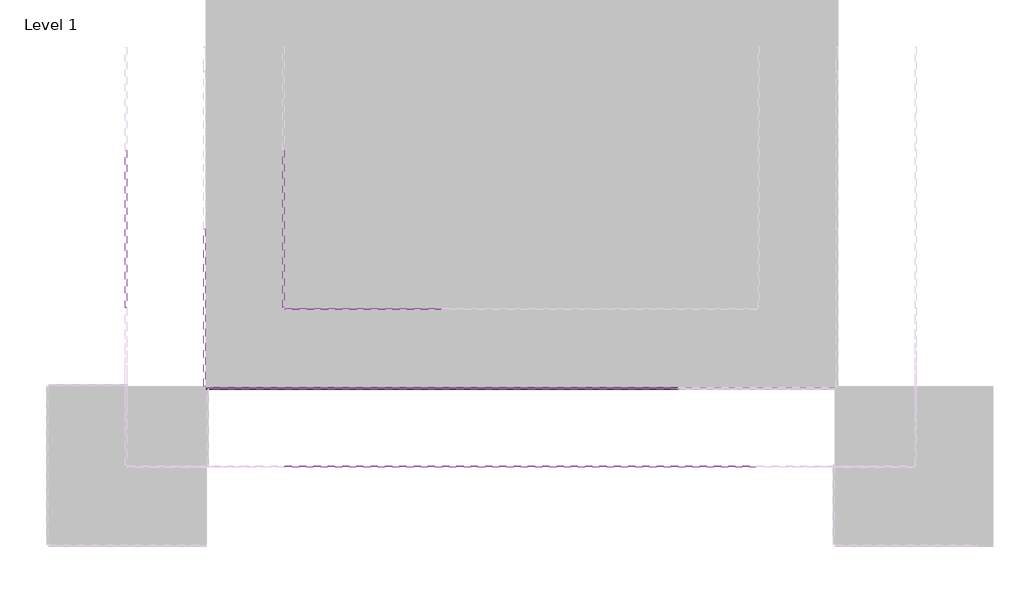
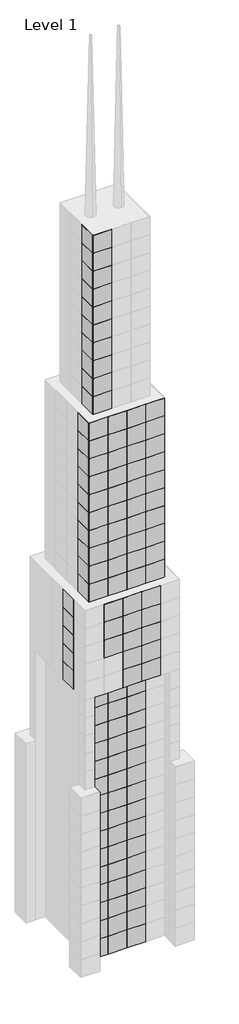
# One storey, part 2 of 15: 138 plates.
"""IFC4 building model written with IfcOpenShell, lengths in millimetres."""

from ifc_helpers import new_model, si_unit, origin, place, context, project, spatial, transform, mapped, element, save
from components import system_panel_glazed_aa64d645, system_panel_glazed_b248394d

model = new_model("IFC4")

# Units and contexts
model_context = context("Model", 3, world=origin())
ifc_project = project(units=[si_unit("LENGTHUNIT", "METRE", prefix="MILLI")], contexts=[model_context])

# Site, building, storey
site = spatial("IfcSite", under=ifc_project)
building = spatial("IfcBuilding", under=site)
storey = spatial("IfcBuildingStorey", under=building, Name="Level 1", Elevation=0.0)

# Plates
placement = place(None, origin())
system_panel_glazed_shape = system_panel_glazed_aa64d645(model_context)
element("IfcPlate", 1, ObjectType="System Panel : Glazed", at=placement, inside=storey, context=model_context, shape_type="MappedRepresentation", body=[
    mapped(system_panel_glazed_shape, transform((-13219.4161695, -5742.0504489, 45720.0), x_axis=(1.0, 0.0, 0.0), y_axis=(0.0, 1.0, 0.0), z_axis=(0.0, 0.0, 1.0))),
])
element("IfcPlate", 2, ObjectType="System Panel : Glazed", at=placement, inside=storey, context=model_context, shape_type="MappedRepresentation", body=[
    mapped(system_panel_glazed_shape, transform((-10171.4161695, -5742.0504489, 45720.0), x_axis=(1.0, 0.0, 0.0), y_axis=(0.0, 1.0, 0.0), z_axis=(0.0, 0.0, 1.0))),
])
element("IfcPlate", 3, ObjectType="System Panel : Glazed", at=placement, inside=storey, context=model_context, shape_type="MappedRepresentation", body=[
    mapped(system_panel_glazed_shape, transform((-13219.4161695, -5742.0504489, 48768.0), x_axis=(1.0, 0.0, 0.0), y_axis=(0.0, 1.0, 0.0), z_axis=(0.0, 0.0, 1.0))),
])
element("IfcPlate", 4, ObjectType="System Panel : Glazed", at=placement, inside=storey, context=model_context, shape_type="MappedRepresentation", body=[
    mapped(system_panel_glazed_shape, transform((-10171.4161695, -5742.0504489, 48768.0), x_axis=(1.0, 0.0, 0.0), y_axis=(0.0, 1.0, 0.0), z_axis=(0.0, 0.0, 1.0))),
])
element("IfcPlate", 5, ObjectType="System Panel : Glazed", at=placement, inside=storey, context=model_context, shape_type="MappedRepresentation", body=[
    mapped(system_panel_glazed_shape, transform((-16267.4161695, -5742.0504489, 51816.0), x_axis=(1.0, 0.0, 0.0), y_axis=(0.0, 1.0, 0.0), z_axis=(0.0, 0.0, 1.0))),
])
element("IfcPlate", 6, ObjectType="System Panel : Glazed", at=placement, inside=storey, context=model_context, shape_type="MappedRepresentation", body=[
    mapped(system_panel_glazed_shape, transform((-13219.4161695, -5742.0504489, 51816.0), x_axis=(1.0, 0.0, 0.0), y_axis=(0.0, 1.0, 0.0), z_axis=(0.0, 0.0, 1.0))),
])
element("IfcPlate", 7, ObjectType="System Panel : Glazed", at=placement, inside=storey, context=model_context, shape_type="MappedRepresentation", body=[
    mapped(system_panel_glazed_shape, transform((-10171.4161695, -5742.0504489, 51816.0), x_axis=(1.0, 0.0, 0.0), y_axis=(0.0, 1.0, 0.0), z_axis=(0.0, 0.0, 1.0))),
])
element("IfcPlate", 8, ObjectType="System Panel : Glazed", at=placement, inside=storey, context=model_context, shape_type="MappedRepresentation", body=[
    mapped(system_panel_glazed_shape, transform((-16267.4161695, -5742.0504489, 54864.0), x_axis=(1.0, 0.0, 0.0), y_axis=(0.0, 1.0, 0.0), z_axis=(0.0, 0.0, 1.0))),
])
element("IfcPlate", 9, ObjectType="System Panel : Glazed", at=placement, inside=storey, context=model_context, shape_type="MappedRepresentation", body=[
    mapped(system_panel_glazed_shape, transform((-13219.4161695, -5742.0504489, 54864.0), x_axis=(1.0, 0.0, 0.0), y_axis=(0.0, 1.0, 0.0), z_axis=(0.0, 0.0, 1.0))),
])
element("IfcPlate", 10, ObjectType="System Panel : Glazed", at=placement, inside=storey, context=model_context, shape_type="MappedRepresentation", body=[
    mapped(system_panel_glazed_shape, transform((-10171.4161695, -5742.0504489, 54864.0), x_axis=(1.0, 0.0, 0.0), y_axis=(0.0, 1.0, 0.0), z_axis=(0.0, 0.0, 1.0))),
])
element("IfcPlate", 11, ObjectType="System Panel : Glazed", at=placement, inside=storey, context=model_context, shape_type="MappedRepresentation", body=[
    mapped(system_panel_glazed_shape, transform((-16267.4161695, -5742.0504489, 57912.0), x_axis=(1.0, 0.0, 0.0), y_axis=(0.0, 1.0, 0.0), z_axis=(0.0, 0.0, 1.0))),
])
element("IfcPlate", 12, ObjectType="System Panel : Glazed", at=placement, inside=storey, context=model_context, shape_type="MappedRepresentation", body=[
    mapped(system_panel_glazed_shape, transform((-13219.4161695, -5742.0504489, 57912.0), x_axis=(1.0, 0.0, 0.0), y_axis=(0.0, 1.0, 0.0), z_axis=(0.0, 0.0, 1.0))),
])
element("IfcPlate", 13, ObjectType="System Panel : Glazed", at=placement, inside=storey, context=model_context, shape_type="MappedRepresentation", body=[
    mapped(system_panel_glazed_shape, transform((-10171.4161695, -5742.0504489, 57912.0), x_axis=(1.0, 0.0, 0.0), y_axis=(0.0, 1.0, 0.0), z_axis=(0.0, 0.0, 1.0))),
])
element("IfcPlate", 14, ObjectType="System Panel : Glazed", at=placement, inside=storey, context=model_context, shape_type="MappedRepresentation", body=[
    mapped(system_panel_glazed_shape, transform((-20839.4161695, -1170.0504489, 45720.0), x_axis=(0.0, -1.0, 0.0), y_axis=(1.0, 0.0, 0.0), z_axis=(0.0, 0.0, 1.0))),
])
element("IfcPlate", 15, ObjectType="System Panel : Glazed", at=placement, inside=storey, context=model_context, shape_type="MappedRepresentation", body=[
    mapped(system_panel_glazed_shape, transform((-20839.4161695, -1170.0504489, 48768.0), x_axis=(0.0, -1.0, 0.0), y_axis=(1.0, 0.0, 0.0), z_axis=(0.0, 0.0, 1.0))),
])
element("IfcPlate", 16, ObjectType="System Panel : Glazed", at=placement, inside=storey, context=model_context, shape_type="MappedRepresentation", body=[
    mapped(system_panel_glazed_shape, transform((-20839.4161695, -1170.0504489, 51816.0), x_axis=(0.0, -1.0, 0.0), y_axis=(1.0, 0.0, 0.0), z_axis=(0.0, 0.0, 1.0))),
])
element("IfcPlate", 17, ObjectType="System Panel : Glazed", at=placement, inside=storey, context=model_context, shape_type="MappedRepresentation", body=[
    mapped(system_panel_glazed_shape, transform((-20839.4161695, -1170.0504489, 54864.0), x_axis=(0.0, -1.0, 0.0), y_axis=(1.0, 0.0, 0.0), z_axis=(0.0, 0.0, 1.0))),
])
element("IfcPlate", 18, ObjectType="System Panel : Glazed", at=placement, inside=storey, context=model_context, shape_type="MappedRepresentation", body=[
    mapped(system_panel_glazed_shape, transform((-20839.4161695, -1170.0504489, 57912.0), x_axis=(0.0, -1.0, 0.0), y_axis=(1.0, 0.0, 0.0), z_axis=(0.0, 0.0, 1.0))),
])
element("IfcPlate", 19, ObjectType="System Panel : Glazed", at=placement, inside=storey, context=model_context, shape_type="MappedRepresentation", body=[
    mapped(system_panel_glazed_shape, transform((-17791.4161695, -4218.0504489, 60960.0), x_axis=(1.0, 0.0, 0.0), y_axis=(0.0, 1.0, 0.0), z_axis=(0.0, 0.0, 1.0))),
])
element("IfcPlate", 20, ObjectType="System Panel : Glazed", at=placement, inside=storey, context=model_context, shape_type="MappedRepresentation", body=[
    mapped(system_panel_glazed_shape, transform((-14743.4161695, -4218.0504489, 60960.0), x_axis=(1.0, 0.0, 0.0), y_axis=(0.0, 1.0, 0.0), z_axis=(0.0, 0.0, 1.0))),
])
element("IfcPlate", 21, ObjectType="System Panel : Glazed", at=placement, inside=storey, context=model_context, shape_type="MappedRepresentation", body=[
    mapped(system_panel_glazed_shape, transform((-11695.4161695, -4218.0504489, 60960.0), x_axis=(1.0, 0.0, 0.0), y_axis=(0.0, 1.0, 0.0), z_axis=(0.0, 0.0, 1.0))),
])
element("IfcPlate", 22, ObjectType="System Panel : Glazed", at=placement, inside=storey, context=model_context, shape_type="MappedRepresentation", body=[
    mapped(system_panel_glazed_shape, transform((-8647.4161695, -4218.0504489, 60960.0), x_axis=(1.0, 0.0, 0.0), y_axis=(0.0, 1.0, 0.0), z_axis=(0.0, 0.0, 1.0))),
])
element("IfcPlate", 23, ObjectType="System Panel : Glazed", at=placement, inside=storey, context=model_context, shape_type="MappedRepresentation", body=[
    mapped(system_panel_glazed_shape, transform((-17791.4161695, -4218.0504489, 64008.0), x_axis=(1.0, 0.0, 0.0), y_axis=(0.0, 1.0, 0.0), z_axis=(0.0, 0.0, 1.0))),
])
element("IfcPlate", 24, ObjectType="System Panel : Glazed", at=placement, inside=storey, context=model_context, shape_type="MappedRepresentation", body=[
    mapped(system_panel_glazed_shape, transform((-14743.4161695, -4218.0504489, 64008.0), x_axis=(1.0, 0.0, 0.0), y_axis=(0.0, 1.0, 0.0), z_axis=(0.0, 0.0, 1.0))),
])
element("IfcPlate", 25, ObjectType="System Panel : Glazed", at=placement, inside=storey, context=model_context, shape_type="MappedRepresentation", body=[
    mapped(system_panel_glazed_shape, transform((-11695.4161695, -4218.0504489, 64008.0), x_axis=(1.0, 0.0, 0.0), y_axis=(0.0, 1.0, 0.0), z_axis=(0.0, 0.0, 1.0))),
])
element("IfcPlate", 26, ObjectType="System Panel : Glazed", at=placement, inside=storey, context=model_context, shape_type="MappedRepresentation", body=[
    mapped(system_panel_glazed_shape, transform((-8647.4161695, -4218.0504489, 64008.0), x_axis=(1.0, 0.0, 0.0), y_axis=(0.0, 1.0, 0.0), z_axis=(0.0, 0.0, 1.0))),
])
element("IfcPlate", 27, ObjectType="System Panel : Glazed", at=placement, inside=storey, context=model_context, shape_type="MappedRepresentation", body=[
    mapped(system_panel_glazed_shape, transform((-17791.4161695, -4218.0504489, 67056.0), x_axis=(1.0, 0.0, 0.0), y_axis=(0.0, 1.0, 0.0), z_axis=(0.0, 0.0, 1.0))),
])
element("IfcPlate", 28, ObjectType="System Panel : Glazed", at=placement, inside=storey, context=model_context, shape_type="MappedRepresentation", body=[
    mapped(system_panel_glazed_shape, transform((-14743.4161695, -4218.0504489, 67056.0), x_axis=(1.0, 0.0, 0.0), y_axis=(0.0, 1.0, 0.0), z_axis=(0.0, 0.0, 1.0))),
])
element("IfcPlate", 29, ObjectType="System Panel : Glazed", at=placement, inside=storey, context=model_context, shape_type="MappedRepresentation", body=[
    mapped(system_panel_glazed_shape, transform((-11695.4161695, -4218.0504489, 67056.0), x_axis=(1.0, 0.0, 0.0), y_axis=(0.0, 1.0, 0.0), z_axis=(0.0, 0.0, 1.0))),
])
element("IfcPlate", 30, ObjectType="System Panel : Glazed", at=placement, inside=storey, context=model_context, shape_type="MappedRepresentation", body=[
    mapped(system_panel_glazed_shape, transform((-8647.4161695, -4218.0504489, 67056.0), x_axis=(1.0, 0.0, 0.0), y_axis=(0.0, 1.0, 0.0), z_axis=(0.0, 0.0, 1.0))),
])
element("IfcPlate", 31, ObjectType="System Panel : Glazed", at=placement, inside=storey, context=model_context, shape_type="MappedRepresentation", body=[
    mapped(system_panel_glazed_shape, transform((-17791.4161695, -4218.0504489, 70104.0), x_axis=(1.0, 0.0, 0.0), y_axis=(0.0, 1.0, 0.0), z_axis=(0.0, 0.0, 1.0))),
])
element("IfcPlate", 32, ObjectType="System Panel : Glazed", at=placement, inside=storey, context=model_context, shape_type="MappedRepresentation", body=[
    mapped(system_panel_glazed_shape, transform((-14743.4161695, -4218.0504489, 70104.0), x_axis=(1.0, 0.0, 0.0), y_axis=(0.0, 1.0, 0.0), z_axis=(0.0, 0.0, 1.0))),
])
element("IfcPlate", 33, ObjectType="System Panel : Glazed", at=placement, inside=storey, context=model_context, shape_type="MappedRepresentation", body=[
    mapped(system_panel_glazed_shape, transform((-11695.4161695, -4218.0504489, 70104.0), x_axis=(1.0, 0.0, 0.0), y_axis=(0.0, 1.0, 0.0), z_axis=(0.0, 0.0, 1.0))),
])
element("IfcPlate", 34, ObjectType="System Panel : Glazed", at=placement, inside=storey, context=model_context, shape_type="MappedRepresentation", body=[
    mapped(system_panel_glazed_shape, transform((-8647.4161695, -4218.0504489, 70104.0), x_axis=(1.0, 0.0, 0.0), y_axis=(0.0, 1.0, 0.0), z_axis=(0.0, 0.0, 1.0))),
])
element("IfcPlate", 35, ObjectType="System Panel : Glazed", at=placement, inside=storey, context=model_context, shape_type="MappedRepresentation", body=[
    mapped(system_panel_glazed_shape, transform((-17791.4161695, -4218.0504489, 73152.0), x_axis=(1.0, 0.0, 0.0), y_axis=(0.0, 1.0, 0.0), z_axis=(0.0, 0.0, 1.0))),
])
element("IfcPlate", 36, ObjectType="System Panel : Glazed", at=placement, inside=storey, context=model_context, shape_type="MappedRepresentation", body=[
    mapped(system_panel_glazed_shape, transform((-14743.4161695, -4218.0504489, 73152.0), x_axis=(1.0, 0.0, 0.0), y_axis=(0.0, 1.0, 0.0), z_axis=(0.0, 0.0, 1.0))),
])
element("IfcPlate", 37, ObjectType="System Panel : Glazed", at=placement, inside=storey, context=model_context, shape_type="MappedRepresentation", body=[
    mapped(system_panel_glazed_shape, transform((-11695.4161695, -4218.0504489, 73152.0), x_axis=(1.0, 0.0, 0.0), y_axis=(0.0, 1.0, 0.0), z_axis=(0.0, 0.0, 1.0))),
])
element("IfcPlate", 38, ObjectType="System Panel : Glazed", at=placement, inside=storey, context=model_context, shape_type="MappedRepresentation", body=[
    mapped(system_panel_glazed_shape, transform((-8647.4161695, -4218.0504489, 73152.0), x_axis=(1.0, 0.0, 0.0), y_axis=(0.0, 1.0, 0.0), z_axis=(0.0, 0.0, 1.0))),
])
element("IfcPlate", 39, ObjectType="System Panel : Glazed", at=placement, inside=storey, context=model_context, shape_type="MappedRepresentation", body=[
    mapped(system_panel_glazed_shape, transform((-17791.4161695, -4218.0504489, 76200.0), x_axis=(1.0, 0.0, 0.0), y_axis=(0.0, 1.0, 0.0), z_axis=(0.0, 0.0, 1.0))),
])
element("IfcPlate", 40, ObjectType="System Panel : Glazed", at=placement, inside=storey, context=model_context, shape_type="MappedRepresentation", body=[
    mapped(system_panel_glazed_shape, transform((-14743.4161695, -4218.0504489, 76200.0), x_axis=(1.0, 0.0, 0.0), y_axis=(0.0, 1.0, 0.0), z_axis=(0.0, 0.0, 1.0))),
])
element("IfcPlate", 41, ObjectType="System Panel : Glazed", at=placement, inside=storey, context=model_context, shape_type="MappedRepresentation", body=[
    mapped(system_panel_glazed_shape, transform((-11695.4161695, -4218.0504489, 76200.0), x_axis=(1.0, 0.0, 0.0), y_axis=(0.0, 1.0, 0.0), z_axis=(0.0, 0.0, 1.0))),
])
element("IfcPlate", 42, ObjectType="System Panel : Glazed", at=placement, inside=storey, context=model_context, shape_type="MappedRepresentation", body=[
    mapped(system_panel_glazed_shape, transform((-8647.4161695, -4218.0504489, 76200.0), x_axis=(1.0, 0.0, 0.0), y_axis=(0.0, 1.0, 0.0), z_axis=(0.0, 0.0, 1.0))),
])
element("IfcPlate", 43, ObjectType="System Panel : Glazed", at=placement, inside=storey, context=model_context, shape_type="MappedRepresentation", body=[
    mapped(system_panel_glazed_shape, transform((-17791.4161695, -4218.0504489, 79248.0), x_axis=(1.0, 0.0, 0.0), y_axis=(0.0, 1.0, 0.0), z_axis=(0.0, 0.0, 1.0))),
])
element("IfcPlate", 44, ObjectType="System Panel : Glazed", at=placement, inside=storey, context=model_context, shape_type="MappedRepresentation", body=[
    mapped(system_panel_glazed_shape, transform((-14743.4161695, -4218.0504489, 79248.0), x_axis=(1.0, 0.0, 0.0), y_axis=(0.0, 1.0, 0.0), z_axis=(0.0, 0.0, 1.0))),
])
element("IfcPlate", 45, ObjectType="System Panel : Glazed", at=placement, inside=storey, context=model_context, shape_type="MappedRepresentation", body=[
    mapped(system_panel_glazed_shape, transform((-11695.4161695, -4218.0504489, 79248.0), x_axis=(1.0, 0.0, 0.0), y_axis=(0.0, 1.0, 0.0), z_axis=(0.0, 0.0, 1.0))),
])
element("IfcPlate", 46, ObjectType="System Panel : Glazed", at=placement, inside=storey, context=model_context, shape_type="MappedRepresentation", body=[
    mapped(system_panel_glazed_shape, transform((-8647.4161695, -4218.0504489, 79248.0), x_axis=(1.0, 0.0, 0.0), y_axis=(0.0, 1.0, 0.0), z_axis=(0.0, 0.0, 1.0))),
])
element("IfcPlate", 47, ObjectType="System Panel : Glazed", at=placement, inside=storey, context=model_context, shape_type="MappedRepresentation", body=[
    mapped(system_panel_glazed_shape, transform((-17791.4161695, -4218.0504489, 82296.0), x_axis=(1.0, 0.0, 0.0), y_axis=(0.0, 1.0, 0.0), z_axis=(0.0, 0.0, 1.0))),
])
element("IfcPlate", 48, ObjectType="System Panel : Glazed", at=placement, inside=storey, context=model_context, shape_type="MappedRepresentation", body=[
    mapped(system_panel_glazed_shape, transform((-14743.4161695, -4218.0504489, 82296.0), x_axis=(1.0, 0.0, 0.0), y_axis=(0.0, 1.0, 0.0), z_axis=(0.0, 0.0, 1.0))),
])
element("IfcPlate", 49, ObjectType="System Panel : Glazed", at=placement, inside=storey, context=model_context, shape_type="MappedRepresentation", body=[
    mapped(system_panel_glazed_shape, transform((-11695.4161695, -4218.0504489, 82296.0), x_axis=(1.0, 0.0, 0.0), y_axis=(0.0, 1.0, 0.0), z_axis=(0.0, 0.0, 1.0))),
])
element("IfcPlate", 50, ObjectType="System Panel : Glazed", at=placement, inside=storey, context=model_context, shape_type="MappedRepresentation", body=[
    mapped(system_panel_glazed_shape, transform((-8647.4161695, -4218.0504489, 82296.0), x_axis=(1.0, 0.0, 0.0), y_axis=(0.0, 1.0, 0.0), z_axis=(0.0, 0.0, 1.0))),
])
element("IfcPlate", 51, ObjectType="System Panel : Glazed", at=placement, inside=storey, context=model_context, shape_type="MappedRepresentation", body=[
    mapped(system_panel_glazed_shape, transform((-17791.4161695, -4218.0504489, 85344.0), x_axis=(1.0, 0.0, 0.0), y_axis=(0.0, 1.0, 0.0), z_axis=(0.0, 0.0, 1.0))),
])
element("IfcPlate", 52, ObjectType="System Panel : Glazed", at=placement, inside=storey, context=model_context, shape_type="MappedRepresentation", body=[
    mapped(system_panel_glazed_shape, transform((-14743.4161695, -4218.0504489, 85344.0), x_axis=(1.0, 0.0, 0.0), y_axis=(0.0, 1.0, 0.0), z_axis=(0.0, 0.0, 1.0))),
])
element("IfcPlate", 53, ObjectType="System Panel : Glazed", at=placement, inside=storey, context=model_context, shape_type="MappedRepresentation", body=[
    mapped(system_panel_glazed_shape, transform((-11695.4161695, -4218.0504489, 85344.0), x_axis=(1.0, 0.0, 0.0), y_axis=(0.0, 1.0, 0.0), z_axis=(0.0, 0.0, 1.0))),
])
element("IfcPlate", 54, ObjectType="System Panel : Glazed", at=placement, inside=storey, context=model_context, shape_type="MappedRepresentation", body=[
    mapped(system_panel_glazed_shape, transform((-8647.4161695, -4218.0504489, 85344.0), x_axis=(1.0, 0.0, 0.0), y_axis=(0.0, 1.0, 0.0), z_axis=(0.0, 0.0, 1.0))),
])
element("IfcPlate", 55, ObjectType="System Panel : Glazed", at=placement, inside=storey, context=model_context, shape_type="MappedRepresentation", body=[
    mapped(system_panel_glazed_shape, transform((-17791.4161695, -4218.0504489, 88392.0), x_axis=(1.0, 0.0, 0.0), y_axis=(0.0, 1.0, 0.0), z_axis=(0.0, 0.0, 1.0))),
])
element("IfcPlate", 56, ObjectType="System Panel : Glazed", at=placement, inside=storey, context=model_context, shape_type="MappedRepresentation", body=[
    mapped(system_panel_glazed_shape, transform((-14743.4161695, -4218.0504489, 88392.0), x_axis=(1.0, 0.0, 0.0), y_axis=(0.0, 1.0, 0.0), z_axis=(0.0, 0.0, 1.0))),
])
element("IfcPlate", 57, ObjectType="System Panel : Glazed", at=placement, inside=storey, context=model_context, shape_type="MappedRepresentation", body=[
    mapped(system_panel_glazed_shape, transform((-11695.4161695, -4218.0504489, 88392.0), x_axis=(1.0, 0.0, 0.0), y_axis=(0.0, 1.0, 0.0), z_axis=(0.0, 0.0, 1.0))),
])
element("IfcPlate", 58, ObjectType="System Panel : Glazed", at=placement, inside=storey, context=model_context, shape_type="MappedRepresentation", body=[
    mapped(system_panel_glazed_shape, transform((-8647.4161695, -4218.0504489, 88392.0), x_axis=(1.0, 0.0, 0.0), y_axis=(0.0, 1.0, 0.0), z_axis=(0.0, 0.0, 1.0))),
])
element("IfcPlate", 59, ObjectType="System Panel : Glazed", at=placement, inside=storey, context=model_context, shape_type="MappedRepresentation", body=[
    mapped(system_panel_glazed_shape, transform((-19315.4161695, -2694.0504489, 60960.0), x_axis=(0.0, -1.0, 0.0), y_axis=(1.0, 0.0, 0.0), z_axis=(0.0, 0.0, 1.0))),
])
element("IfcPlate", 60, ObjectType="System Panel : Glazed", at=placement, inside=storey, context=model_context, shape_type="MappedRepresentation", body=[
    mapped(system_panel_glazed_shape, transform((-19315.4161695, -2694.0504489, 64008.0), x_axis=(0.0, -1.0, 0.0), y_axis=(1.0, 0.0, 0.0), z_axis=(0.0, 0.0, 1.0))),
])
element("IfcPlate", 61, ObjectType="System Panel : Glazed", at=placement, inside=storey, context=model_context, shape_type="MappedRepresentation", body=[
    mapped(system_panel_glazed_shape, transform((-19315.4161695, -2694.0504489, 67056.0), x_axis=(0.0, -1.0, 0.0), y_axis=(1.0, 0.0, 0.0), z_axis=(0.0, 0.0, 1.0))),
])
element("IfcPlate", 62, ObjectType="System Panel : Glazed", at=placement, inside=storey, context=model_context, shape_type="MappedRepresentation", body=[
    mapped(system_panel_glazed_shape, transform((-19315.4161695, -2694.0504489, 70104.0), x_axis=(0.0, -1.0, 0.0), y_axis=(1.0, 0.0, 0.0), z_axis=(0.0, 0.0, 1.0))),
])
element("IfcPlate", 63, ObjectType="System Panel : Glazed", at=placement, inside=storey, context=model_context, shape_type="MappedRepresentation", body=[
    mapped(system_panel_glazed_shape, transform((-19315.4161695, -2694.0504489, 73152.0), x_axis=(0.0, -1.0, 0.0), y_axis=(1.0, 0.0, 0.0), z_axis=(0.0, 0.0, 1.0))),
])
element("IfcPlate", 64, ObjectType="System Panel : Glazed", at=placement, inside=storey, context=model_context, shape_type="MappedRepresentation", body=[
    mapped(system_panel_glazed_shape, transform((-19315.4161695, -2694.0504489, 76200.0), x_axis=(0.0, -1.0, 0.0), y_axis=(1.0, 0.0, 0.0), z_axis=(0.0, 0.0, 1.0))),
])
element("IfcPlate", 65, ObjectType="System Panel : Glazed", at=placement, inside=storey, context=model_context, shape_type="MappedRepresentation", body=[
    mapped(system_panel_glazed_shape, transform((-19315.4161695, -2694.0504489, 79248.0), x_axis=(0.0, -1.0, 0.0), y_axis=(1.0, 0.0, 0.0), z_axis=(0.0, 0.0, 1.0))),
])
element("IfcPlate", 66, ObjectType="System Panel : Glazed", at=placement, inside=storey, context=model_context, shape_type="MappedRepresentation", body=[
    mapped(system_panel_glazed_shape, transform((-19315.4161695, -2694.0504489, 82296.0), x_axis=(0.0, -1.0, 0.0), y_axis=(1.0, 0.0, 0.0), z_axis=(0.0, 0.0, 1.0))),
])
element("IfcPlate", 67, ObjectType="System Panel : Glazed", at=placement, inside=storey, context=model_context, shape_type="MappedRepresentation", body=[
    mapped(system_panel_glazed_shape, transform((-19315.4161695, -2694.0504489, 85344.0), x_axis=(0.0, -1.0, 0.0), y_axis=(1.0, 0.0, 0.0), z_axis=(0.0, 0.0, 1.0))),
])
element("IfcPlate", 68, ObjectType="System Panel : Glazed", at=placement, inside=storey, context=model_context, shape_type="MappedRepresentation", body=[
    mapped(system_panel_glazed_shape, transform((-19315.4161695, -2694.0504489, 88392.0), x_axis=(0.0, -1.0, 0.0), y_axis=(1.0, 0.0, 0.0), z_axis=(0.0, 0.0, 1.0))),
])
element("IfcPlate", 69, ObjectType="System Panel : Glazed", at=placement, inside=storey, context=model_context, shape_type="MappedRepresentation", body=[
    mapped(system_panel_glazed_shape, transform((-16261.8488996, -2694.0504489, 91440.0), x_axis=(1.0, 0.0, 0.0), y_axis=(0.0, 1.0, 0.0), z_axis=(0.0, 0.0, 1.0))),
])
element("IfcPlate", 70, ObjectType="System Panel : Glazed", at=placement, inside=storey, context=model_context, shape_type="MappedRepresentation", body=[
    mapped(system_panel_glazed_shape, transform((-16261.8488996, -2694.0504489, 94488.0), x_axis=(1.0, 0.0, 0.0), y_axis=(0.0, 1.0, 0.0), z_axis=(0.0, 0.0, 1.0))),
])
element("IfcPlate", 71, ObjectType="System Panel : Glazed", at=placement, inside=storey, context=model_context, shape_type="MappedRepresentation", body=[
    mapped(system_panel_glazed_shape, transform((-16261.8488996, -2694.0504489, 97536.0), x_axis=(1.0, 0.0, 0.0), y_axis=(0.0, 1.0, 0.0), z_axis=(0.0, 0.0, 1.0))),
])
element("IfcPlate", 72, ObjectType="System Panel : Glazed", at=placement, inside=storey, context=model_context, shape_type="MappedRepresentation", body=[
    mapped(system_panel_glazed_shape, transform((-16261.8488996, -2694.0504489, 100584.0), x_axis=(1.0, 0.0, 0.0), y_axis=(0.0, 1.0, 0.0), z_axis=(0.0, 0.0, 1.0))),
])
element("IfcPlate", 73, ObjectType="System Panel : Glazed", at=placement, inside=storey, context=model_context, shape_type="MappedRepresentation", body=[
    mapped(system_panel_glazed_shape, transform((-16261.8488996, -2694.0504489, 103632.0), x_axis=(1.0, 0.0, 0.0), y_axis=(0.0, 1.0, 0.0), z_axis=(0.0, 0.0, 1.0))),
])
element("IfcPlate", 74, ObjectType="System Panel : Glazed", at=placement, inside=storey, context=model_context, shape_type="MappedRepresentation", body=[
    mapped(system_panel_glazed_shape, transform((-16261.8488996, -2694.0504489, 106680.0), x_axis=(1.0, 0.0, 0.0), y_axis=(0.0, 1.0, 0.0), z_axis=(0.0, 0.0, 1.0))),
])
element("IfcPlate", 75, ObjectType="System Panel : Glazed", at=placement, inside=storey, context=model_context, shape_type="MappedRepresentation", body=[
    mapped(system_panel_glazed_shape, transform((-16261.8488996, -2694.0504489, 109728.0), x_axis=(1.0, 0.0, 0.0), y_axis=(0.0, 1.0, 0.0), z_axis=(0.0, 0.0, 1.0))),
])
element("IfcPlate", 76, ObjectType="System Panel : Glazed", at=placement, inside=storey, context=model_context, shape_type="MappedRepresentation", body=[
    mapped(system_panel_glazed_shape, transform((-16261.8488996, -2694.0504489, 112776.0), x_axis=(1.0, 0.0, 0.0), y_axis=(0.0, 1.0, 0.0), z_axis=(0.0, 0.0, 1.0))),
])
element("IfcPlate", 77, ObjectType="System Panel : Glazed", at=placement, inside=storey, context=model_context, shape_type="MappedRepresentation", body=[
    mapped(system_panel_glazed_shape, transform((-16261.8488996, -2694.0504489, 115824.0), x_axis=(1.0, 0.0, 0.0), y_axis=(0.0, 1.0, 0.0), z_axis=(0.0, 0.0, 1.0))),
])
element("IfcPlate", 78, ObjectType="System Panel : Glazed", at=placement, inside=storey, context=model_context, shape_type="MappedRepresentation", body=[
    mapped(system_panel_glazed_shape, transform((-16261.8488996, -2694.0504489, 118872.0), x_axis=(1.0, 0.0, 0.0), y_axis=(0.0, 1.0, 0.0), z_axis=(0.0, 0.0, 1.0))),
])
element("IfcPlate", 79, ObjectType="System Panel : Glazed", at=placement, inside=storey, context=model_context, shape_type="MappedRepresentation", body=[
    mapped(system_panel_glazed_shape, transform((-17785.8488996, -1170.0504489, 91440.0), x_axis=(0.0, -1.0, 0.0), y_axis=(1.0, 0.0, 0.0), z_axis=(0.0, 0.0, 1.0))),
])
element("IfcPlate", 80, ObjectType="System Panel : Glazed", at=placement, inside=storey, context=model_context, shape_type="MappedRepresentation", body=[
    mapped(system_panel_glazed_shape, transform((-17785.8488996, -1170.0504489, 94488.0), x_axis=(0.0, -1.0, 0.0), y_axis=(1.0, 0.0, 0.0), z_axis=(0.0, 0.0, 1.0))),
])
element("IfcPlate", 81, ObjectType="System Panel : Glazed", at=placement, inside=storey, context=model_context, shape_type="MappedRepresentation", body=[
    mapped(system_panel_glazed_shape, transform((-17785.8488996, -1170.0504489, 97536.0), x_axis=(0.0, -1.0, 0.0), y_axis=(1.0, 0.0, 0.0), z_axis=(0.0, 0.0, 1.0))),
])
element("IfcPlate", 82, ObjectType="System Panel : Glazed", at=placement, inside=storey, context=model_context, shape_type="MappedRepresentation", body=[
    mapped(system_panel_glazed_shape, transform((-17785.8488996, -1170.0504489, 100584.0), x_axis=(0.0, -1.0, 0.0), y_axis=(1.0, 0.0, 0.0), z_axis=(0.0, 0.0, 1.0))),
])
element("IfcPlate", 83, ObjectType="System Panel : Glazed", at=placement, inside=storey, context=model_context, shape_type="MappedRepresentation", body=[
    mapped(system_panel_glazed_shape, transform((-17785.8488996, -1170.0504489, 103632.0), x_axis=(0.0, -1.0, 0.0), y_axis=(1.0, 0.0, 0.0), z_axis=(0.0, 0.0, 1.0))),
])
element("IfcPlate", 84, ObjectType="System Panel : Glazed", at=placement, inside=storey, context=model_context, shape_type="MappedRepresentation", body=[
    mapped(system_panel_glazed_shape, transform((-17785.8488996, -1170.0504489, 106680.0), x_axis=(0.0, -1.0, 0.0), y_axis=(1.0, 0.0, 0.0), z_axis=(0.0, 0.0, 1.0))),
])
element("IfcPlate", 85, ObjectType="System Panel : Glazed", at=placement, inside=storey, context=model_context, shape_type="MappedRepresentation", body=[
    mapped(system_panel_glazed_shape, transform((-17785.8488996, -1170.0504489, 109728.0), x_axis=(0.0, -1.0, 0.0), y_axis=(1.0, 0.0, 0.0), z_axis=(0.0, 0.0, 1.0))),
])
element("IfcPlate", 86, ObjectType="System Panel : Glazed", at=placement, inside=storey, context=model_context, shape_type="MappedRepresentation", body=[
    mapped(system_panel_glazed_shape, transform((-17785.8488996, -1170.0504489, 112776.0), x_axis=(0.0, -1.0, 0.0), y_axis=(1.0, 0.0, 0.0), z_axis=(0.0, 0.0, 1.0))),
])
element("IfcPlate", 87, ObjectType="System Panel : Glazed", at=placement, inside=storey, context=model_context, shape_type="MappedRepresentation", body=[
    mapped(system_panel_glazed_shape, transform((-17785.8488996, -1170.0504489, 115824.0), x_axis=(0.0, -1.0, 0.0), y_axis=(1.0, 0.0, 0.0), z_axis=(0.0, 0.0, 1.0))),
])
element("IfcPlate", 88, ObjectType="System Panel : Glazed", at=placement, inside=storey, context=model_context, shape_type="MappedRepresentation", body=[
    mapped(system_panel_glazed_shape, transform((-17785.8488996, -1170.0504489, 118872.0), x_axis=(0.0, -1.0, 0.0), y_axis=(1.0, 0.0, 0.0), z_axis=(0.0, 0.0, 1.0))),
])
element("IfcPlate", 89, ObjectType="System Panel : Glazed", at=placement, inside=storey, context=model_context, shape_type="MappedRepresentation", body=[
    mapped(system_panel_glazed_shape, transform((-20839.4161695, -1170.0504489, 45720.0), x_axis=(0.0, -1.0, 0.0), y_axis=(1.0, 0.0, 0.0), z_axis=(0.0, 0.0, 1.0))),
])
element("IfcPlate", 90, ObjectType="System Panel : Glazed", at=placement, inside=storey, context=model_context, shape_type="MappedRepresentation", body=[
    mapped(system_panel_glazed_shape, transform((-20839.4161695, -1170.0504489, 48768.0), x_axis=(0.0, -1.0, 0.0), y_axis=(1.0, 0.0, 0.0), z_axis=(0.0, 0.0, 1.0))),
])
element("IfcPlate", 91, ObjectType="System Panel : Glazed", at=placement, inside=storey, context=model_context, shape_type="MappedRepresentation", body=[
    mapped(system_panel_glazed_shape, transform((-20839.4161695, -1170.0504489, 51816.0), x_axis=(0.0, -1.0, 0.0), y_axis=(1.0, 0.0, 0.0), z_axis=(0.0, 0.0, 1.0))),
])
element("IfcPlate", 92, ObjectType="System Panel : Glazed", at=placement, inside=storey, context=model_context, shape_type="MappedRepresentation", body=[
    mapped(system_panel_glazed_shape, transform((-20839.4161695, -1170.0504489, 54864.0), x_axis=(0.0, -1.0, 0.0), y_axis=(1.0, 0.0, 0.0), z_axis=(0.0, 0.0, 1.0))),
])
element("IfcPlate", 93, ObjectType="System Panel : Glazed", at=placement, inside=storey, context=model_context, shape_type="MappedRepresentation", body=[
    mapped(system_panel_glazed_shape, transform((-20839.4161695, -1170.0504489, 57912.0), x_axis=(0.0, -1.0, 0.0), y_axis=(1.0, 0.0, 0.0), z_axis=(0.0, 0.0, 1.0))),
])
system_panel_glazed_2_shape = system_panel_glazed_b248394d(model_context)
element("IfcPlate", 94, ObjectType="System Panel : Glazed", at=placement, inside=storey, context=model_context, shape_type="MappedRepresentation", body=[
    mapped(system_panel_glazed_2_shape, transform((-11695.4161695, -4218.0504489, 0.0), x_axis=(-1.0, 0.0, 0.0), y_axis=(0.0, -1.0, 0.0), z_axis=(0.0, 0.0, 1.0))),
])
element("IfcPlate", 95, ObjectType="System Panel : Glazed", at=placement, inside=storey, context=model_context, shape_type="MappedRepresentation", body=[
    mapped(system_panel_glazed_2_shape, transform((-14743.4161695, -4218.0504489, 0.0), x_axis=(-1.0, 0.0, 0.0), y_axis=(0.0, -1.0, 0.0), z_axis=(0.0, 0.0, 1.0))),
])
element("IfcPlate", 96, ObjectType="System Panel : Glazed", at=placement, inside=storey, context=model_context, shape_type="MappedRepresentation", body=[
    mapped(system_panel_glazed_2_shape, transform((-17791.4161695, -4218.0504489, 0.0), x_axis=(-1.0, 0.0, 0.0), y_axis=(0.0, -1.0, 0.0), z_axis=(0.0, 0.0, 1.0))),
])
element("IfcPlate", 97, ObjectType="System Panel : Glazed", at=placement, inside=storey, context=model_context, shape_type="MappedRepresentation", body=[
    mapped(system_panel_glazed_2_shape, transform((-11695.4161695, -4218.0504489, 3048.0), x_axis=(-1.0, 0.0, 0.0), y_axis=(0.0, -1.0, 0.0), z_axis=(0.0, 0.0, 1.0))),
])
element("IfcPlate", 98, ObjectType="System Panel : Glazed", at=placement, inside=storey, context=model_context, shape_type="MappedRepresentation", body=[
    mapped(system_panel_glazed_2_shape, transform((-14743.4161695, -4218.0504489, 3048.0), x_axis=(-1.0, 0.0, 0.0), y_axis=(0.0, -1.0, 0.0), z_axis=(0.0, 0.0, 1.0))),
])
element("IfcPlate", 99, ObjectType="System Panel : Glazed", at=placement, inside=storey, context=model_context, shape_type="MappedRepresentation", body=[
    mapped(system_panel_glazed_2_shape, transform((-17791.4161695, -4218.0504489, 3048.0), x_axis=(-1.0, 0.0, 0.0), y_axis=(0.0, -1.0, 0.0), z_axis=(0.0, 0.0, 1.0))),
])
element("IfcPlate", 100, ObjectType="System Panel : Glazed", at=placement, inside=storey, context=model_context, shape_type="MappedRepresentation", body=[
    mapped(system_panel_glazed_2_shape, transform((-11695.4161695, -4218.0504489, 6096.0), x_axis=(-1.0, 0.0, 0.0), y_axis=(0.0, -1.0, 0.0), z_axis=(0.0, 0.0, 1.0))),
])
element("IfcPlate", 101, ObjectType="System Panel : Glazed", at=placement, inside=storey, context=model_context, shape_type="MappedRepresentation", body=[
    mapped(system_panel_glazed_2_shape, transform((-14743.4161695, -4218.0504489, 6096.0), x_axis=(-1.0, 0.0, 0.0), y_axis=(0.0, -1.0, 0.0), z_axis=(0.0, 0.0, 1.0))),
])
element("IfcPlate", 102, ObjectType="System Panel : Glazed", at=placement, inside=storey, context=model_context, shape_type="MappedRepresentation", body=[
    mapped(system_panel_glazed_2_shape, transform((-17791.4161695, -4218.0504489, 6096.0), x_axis=(-1.0, 0.0, 0.0), y_axis=(0.0, -1.0, 0.0), z_axis=(0.0, 0.0, 1.0))),
])
element("IfcPlate", 103, ObjectType="System Panel : Glazed", at=placement, inside=storey, context=model_context, shape_type="MappedRepresentation", body=[
    mapped(system_panel_glazed_2_shape, transform((-11695.4161695, -4218.0504489, 9144.0), x_axis=(-1.0, 0.0, 0.0), y_axis=(0.0, -1.0, 0.0), z_axis=(0.0, 0.0, 1.0))),
])
element("IfcPlate", 104, ObjectType="System Panel : Glazed", at=placement, inside=storey, context=model_context, shape_type="MappedRepresentation", body=[
    mapped(system_panel_glazed_2_shape, transform((-14743.4161695, -4218.0504489, 9144.0), x_axis=(-1.0, 0.0, 0.0), y_axis=(0.0, -1.0, 0.0), z_axis=(0.0, 0.0, 1.0))),
])
element("IfcPlate", 105, ObjectType="System Panel : Glazed", at=placement, inside=storey, context=model_context, shape_type="MappedRepresentation", body=[
    mapped(system_panel_glazed_2_shape, transform((-17791.4161695, -4218.0504489, 9144.0), x_axis=(-1.0, 0.0, 0.0), y_axis=(0.0, -1.0, 0.0), z_axis=(0.0, 0.0, 1.0))),
])
element("IfcPlate", 106, ObjectType="System Panel : Glazed", at=placement, inside=storey, context=model_context, shape_type="MappedRepresentation", body=[
    mapped(system_panel_glazed_2_shape, transform((-11695.4161695, -4218.0504489, 12192.0), x_axis=(-1.0, 0.0, 0.0), y_axis=(0.0, -1.0, 0.0), z_axis=(0.0, 0.0, 1.0))),
])
element("IfcPlate", 107, ObjectType="System Panel : Glazed", at=placement, inside=storey, context=model_context, shape_type="MappedRepresentation", body=[
    mapped(system_panel_glazed_2_shape, transform((-14743.4161695, -4218.0504489, 12192.0), x_axis=(-1.0, 0.0, 0.0), y_axis=(0.0, -1.0, 0.0), z_axis=(0.0, 0.0, 1.0))),
])
element("IfcPlate", 108, ObjectType="System Panel : Glazed", at=placement, inside=storey, context=model_context, shape_type="MappedRepresentation", body=[
    mapped(system_panel_glazed_2_shape, transform((-17791.4161695, -4218.0504489, 12192.0), x_axis=(-1.0, 0.0, 0.0), y_axis=(0.0, -1.0, 0.0), z_axis=(0.0, 0.0, 1.0))),
])
element("IfcPlate", 109, ObjectType="System Panel : Glazed", at=placement, inside=storey, context=model_context, shape_type="MappedRepresentation", body=[
    mapped(system_panel_glazed_2_shape, transform((-11695.4161695, -4218.0504489, 15240.0), x_axis=(-1.0, 0.0, 0.0), y_axis=(0.0, -1.0, 0.0), z_axis=(0.0, 0.0, 1.0))),
])
element("IfcPlate", 110, ObjectType="System Panel : Glazed", at=placement, inside=storey, context=model_context, shape_type="MappedRepresentation", body=[
    mapped(system_panel_glazed_2_shape, transform((-14743.4161695, -4218.0504489, 15240.0), x_axis=(-1.0, 0.0, 0.0), y_axis=(0.0, -1.0, 0.0), z_axis=(0.0, 0.0, 1.0))),
])
element("IfcPlate", 111, ObjectType="System Panel : Glazed", at=placement, inside=storey, context=model_context, shape_type="MappedRepresentation", body=[
    mapped(system_panel_glazed_2_shape, transform((-17791.4161695, -4218.0504489, 15240.0), x_axis=(-1.0, 0.0, 0.0), y_axis=(0.0, -1.0, 0.0), z_axis=(0.0, 0.0, 1.0))),
])
element("IfcPlate", 112, ObjectType="System Panel : Glazed", at=placement, inside=storey, context=model_context, shape_type="MappedRepresentation", body=[
    mapped(system_panel_glazed_2_shape, transform((-11695.4161695, -4218.0504489, 18288.0), x_axis=(-1.0, 0.0, 0.0), y_axis=(0.0, -1.0, 0.0), z_axis=(0.0, 0.0, 1.0))),
])
element("IfcPlate", 113, ObjectType="System Panel : Glazed", at=placement, inside=storey, context=model_context, shape_type="MappedRepresentation", body=[
    mapped(system_panel_glazed_2_shape, transform((-14743.4161695, -4218.0504489, 18288.0), x_axis=(-1.0, 0.0, 0.0), y_axis=(0.0, -1.0, 0.0), z_axis=(0.0, 0.0, 1.0))),
])
element("IfcPlate", 114, ObjectType="System Panel : Glazed", at=placement, inside=storey, context=model_context, shape_type="MappedRepresentation", body=[
    mapped(system_panel_glazed_2_shape, transform((-17791.4161695, -4218.0504489, 18288.0), x_axis=(-1.0, 0.0, 0.0), y_axis=(0.0, -1.0, 0.0), z_axis=(0.0, 0.0, 1.0))),
])
element("IfcPlate", 115, ObjectType="System Panel : Glazed", at=placement, inside=storey, context=model_context, shape_type="MappedRepresentation", body=[
    mapped(system_panel_glazed_2_shape, transform((-11695.4161695, -4218.0504489, 21336.0), x_axis=(-1.0, 0.0, 0.0), y_axis=(0.0, -1.0, 0.0), z_axis=(0.0, 0.0, 1.0))),
])
element("IfcPlate", 116, ObjectType="System Panel : Glazed", at=placement, inside=storey, context=model_context, shape_type="MappedRepresentation", body=[
    mapped(system_panel_glazed_2_shape, transform((-14743.4161695, -4218.0504489, 21336.0), x_axis=(-1.0, 0.0, 0.0), y_axis=(0.0, -1.0, 0.0), z_axis=(0.0, 0.0, 1.0))),
])
element("IfcPlate", 117, ObjectType="System Panel : Glazed", at=placement, inside=storey, context=model_context, shape_type="MappedRepresentation", body=[
    mapped(system_panel_glazed_2_shape, transform((-17791.4161695, -4218.0504489, 21336.0), x_axis=(-1.0, 0.0, 0.0), y_axis=(0.0, -1.0, 0.0), z_axis=(0.0, 0.0, 1.0))),
])
element("IfcPlate", 118, ObjectType="System Panel : Glazed", at=placement, inside=storey, context=model_context, shape_type="MappedRepresentation", body=[
    mapped(system_panel_glazed_2_shape, transform((-11695.4161695, -4218.0504489, 24384.0), x_axis=(-1.0, 0.0, 0.0), y_axis=(0.0, -1.0, 0.0), z_axis=(0.0, 0.0, 1.0))),
])
element("IfcPlate", 119, ObjectType="System Panel : Glazed", at=placement, inside=storey, context=model_context, shape_type="MappedRepresentation", body=[
    mapped(system_panel_glazed_2_shape, transform((-14743.4161695, -4218.0504489, 24384.0), x_axis=(-1.0, 0.0, 0.0), y_axis=(0.0, -1.0, 0.0), z_axis=(0.0, 0.0, 1.0))),
])
element("IfcPlate", 120, ObjectType="System Panel : Glazed", at=placement, inside=storey, context=model_context, shape_type="MappedRepresentation", body=[
    mapped(system_panel_glazed_2_shape, transform((-17791.4161695, -4218.0504489, 24384.0), x_axis=(-1.0, 0.0, 0.0), y_axis=(0.0, -1.0, 0.0), z_axis=(0.0, 0.0, 1.0))),
])
element("IfcPlate", 121, ObjectType="System Panel : Glazed", at=placement, inside=storey, context=model_context, shape_type="MappedRepresentation", body=[
    mapped(system_panel_glazed_2_shape, transform((-11695.4161695, -4218.0504489, 27432.0), x_axis=(-1.0, 0.0, 0.0), y_axis=(0.0, -1.0, 0.0), z_axis=(0.0, 0.0, 1.0))),
])
element("IfcPlate", 122, ObjectType="System Panel : Glazed", at=placement, inside=storey, context=model_context, shape_type="MappedRepresentation", body=[
    mapped(system_panel_glazed_2_shape, transform((-14743.4161695, -4218.0504489, 27432.0), x_axis=(-1.0, 0.0, 0.0), y_axis=(0.0, -1.0, 0.0), z_axis=(0.0, 0.0, 1.0))),
])
element("IfcPlate", 123, ObjectType="System Panel : Glazed", at=placement, inside=storey, context=model_context, shape_type="MappedRepresentation", body=[
    mapped(system_panel_glazed_2_shape, transform((-17791.4161695, -4218.0504489, 27432.0), x_axis=(-1.0, 0.0, 0.0), y_axis=(0.0, -1.0, 0.0), z_axis=(0.0, 0.0, 1.0))),
])
element("IfcPlate", 124, ObjectType="System Panel : Glazed", at=placement, inside=storey, context=model_context, shape_type="MappedRepresentation", body=[
    mapped(system_panel_glazed_2_shape, transform((-11695.4161695, -4218.0504489, 30480.0), x_axis=(-1.0, 0.0, 0.0), y_axis=(0.0, -1.0, 0.0), z_axis=(0.0, 0.0, 1.0))),
])
element("IfcPlate", 125, ObjectType="System Panel : Glazed", at=placement, inside=storey, context=model_context, shape_type="MappedRepresentation", body=[
    mapped(system_panel_glazed_2_shape, transform((-14743.4161695, -4218.0504489, 30480.0), x_axis=(-1.0, 0.0, 0.0), y_axis=(0.0, -1.0, 0.0), z_axis=(0.0, 0.0, 1.0))),
])
element("IfcPlate", 126, ObjectType="System Panel : Glazed", at=placement, inside=storey, context=model_context, shape_type="MappedRepresentation", body=[
    mapped(system_panel_glazed_2_shape, transform((-17791.4161695, -4218.0504489, 30480.0), x_axis=(-1.0, 0.0, 0.0), y_axis=(0.0, -1.0, 0.0), z_axis=(0.0, 0.0, 1.0))),
])
element("IfcPlate", 127, ObjectType="System Panel : Glazed", at=placement, inside=storey, context=model_context, shape_type="MappedRepresentation", body=[
    mapped(system_panel_glazed_2_shape, transform((-11695.4161695, -4218.0504489, 33528.0), x_axis=(-1.0, 0.0, 0.0), y_axis=(0.0, -1.0, 0.0), z_axis=(0.0, 0.0, 1.0))),
])
element("IfcPlate", 128, ObjectType="System Panel : Glazed", at=placement, inside=storey, context=model_context, shape_type="MappedRepresentation", body=[
    mapped(system_panel_glazed_2_shape, transform((-14743.4161695, -4218.0504489, 33528.0), x_axis=(-1.0, 0.0, 0.0), y_axis=(0.0, -1.0, 0.0), z_axis=(0.0, 0.0, 1.0))),
])
element("IfcPlate", 129, ObjectType="System Panel : Glazed", at=placement, inside=storey, context=model_context, shape_type="MappedRepresentation", body=[
    mapped(system_panel_glazed_2_shape, transform((-17791.4161695, -4218.0504489, 33528.0), x_axis=(-1.0, 0.0, 0.0), y_axis=(0.0, -1.0, 0.0), z_axis=(0.0, 0.0, 1.0))),
])
element("IfcPlate", 130, ObjectType="System Panel : Glazed", at=placement, inside=storey, context=model_context, shape_type="MappedRepresentation", body=[
    mapped(system_panel_glazed_2_shape, transform((-11695.4161695, -4218.0504489, 36576.0), x_axis=(-1.0, 0.0, 0.0), y_axis=(0.0, -1.0, 0.0), z_axis=(0.0, 0.0, 1.0))),
])
element("IfcPlate", 131, ObjectType="System Panel : Glazed", at=placement, inside=storey, context=model_context, shape_type="MappedRepresentation", body=[
    mapped(system_panel_glazed_2_shape, transform((-14743.4161695, -4218.0504489, 36576.0), x_axis=(-1.0, 0.0, 0.0), y_axis=(0.0, -1.0, 0.0), z_axis=(0.0, 0.0, 1.0))),
])
element("IfcPlate", 132, ObjectType="System Panel : Glazed", at=placement, inside=storey, context=model_context, shape_type="MappedRepresentation", body=[
    mapped(system_panel_glazed_2_shape, transform((-17791.4161695, -4218.0504489, 36576.0), x_axis=(-1.0, 0.0, 0.0), y_axis=(0.0, -1.0, 0.0), z_axis=(0.0, 0.0, 1.0))),
])
element("IfcPlate", 133, ObjectType="System Panel : Glazed", at=placement, inside=storey, context=model_context, shape_type="MappedRepresentation", body=[
    mapped(system_panel_glazed_2_shape, transform((-11695.4161695, -4218.0504489, 39624.0), x_axis=(-1.0, 0.0, 0.0), y_axis=(0.0, -1.0, 0.0), z_axis=(0.0, 0.0, 1.0))),
])
element("IfcPlate", 134, ObjectType="System Panel : Glazed", at=placement, inside=storey, context=model_context, shape_type="MappedRepresentation", body=[
    mapped(system_panel_glazed_2_shape, transform((-14743.4161695, -4218.0504489, 39624.0), x_axis=(-1.0, 0.0, 0.0), y_axis=(0.0, -1.0, 0.0), z_axis=(0.0, 0.0, 1.0))),
])
element("IfcPlate", 135, ObjectType="System Panel : Glazed", at=placement, inside=storey, context=model_context, shape_type="MappedRepresentation", body=[
    mapped(system_panel_glazed_2_shape, transform((-17791.4161695, -4218.0504489, 39624.0), x_axis=(-1.0, 0.0, 0.0), y_axis=(0.0, -1.0, 0.0), z_axis=(0.0, 0.0, 1.0))),
])
element("IfcPlate", 136, ObjectType="System Panel : Glazed", at=placement, inside=storey, context=model_context, shape_type="MappedRepresentation", body=[
    mapped(system_panel_glazed_2_shape, transform((-11695.4161695, -4218.0504489, 42672.0), x_axis=(-1.0, 0.0, 0.0), y_axis=(0.0, -1.0, 0.0), z_axis=(0.0, 0.0, 1.0))),
])
element("IfcPlate", 137, ObjectType="System Panel : Glazed", at=placement, inside=storey, context=model_context, shape_type="MappedRepresentation", body=[
    mapped(system_panel_glazed_2_shape, transform((-14743.4161695, -4218.0504489, 42672.0), x_axis=(-1.0, 0.0, 0.0), y_axis=(0.0, -1.0, 0.0), z_axis=(0.0, 0.0, 1.0))),
])
element("IfcPlate", 138, ObjectType="System Panel : Glazed", at=placement, inside=storey, context=model_context, shape_type="MappedRepresentation", body=[
    mapped(system_panel_glazed_2_shape, transform((-17791.4161695, -4218.0504489, 42672.0), x_axis=(-1.0, 0.0, 0.0), y_axis=(0.0, -1.0, 0.0), z_axis=(0.0, 0.0, 1.0))),
])

save(model, "model.ifc")
